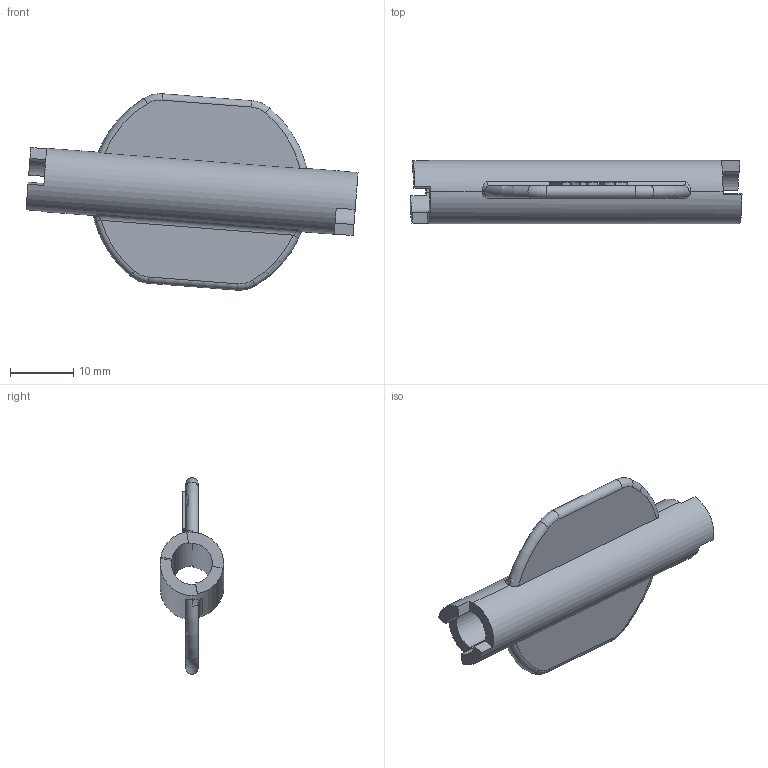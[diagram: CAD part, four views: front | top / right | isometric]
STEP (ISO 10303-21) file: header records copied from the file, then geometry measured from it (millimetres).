
FILE_DESCRIPTION((''),'2;1');
FILE_NAME('0000237132_PRT','2025-11-12T18:36:34',('Wyndorps'),(''),'CREO PARAMETRIC BY PTC INC, 2025010','CREO PARAMETRIC BY PTC INC, 2025010','');
FILE_SCHEMA(('CONFIG_CONTROL_DESIGN'));
Length unit declared in the file: millimetre
Products named in the file (1): 0000237132_PRT
Bounding box: 52.36 x 10 x 30.96 mm (x, y, z)
Volume: 3288.1 mm3; surface area: 3743.6 mm2
Topology: 1 solids, 1 shells, 93 faces, 256 edges, 168 vertices
Faces by surface type: plane 51, extrusion 18, cylinder 12, torus 8, bspline 4
Entity records: 3412 total; most frequent: CARTESIAN_POINT 1073, ORIENTED_EDGE 512, DIRECTION 416, EDGE_CURVE 256, VERTEX_POINT 168, VECTOR 162, LINE 144, AXIS2_PLACEMENT_3D 127
